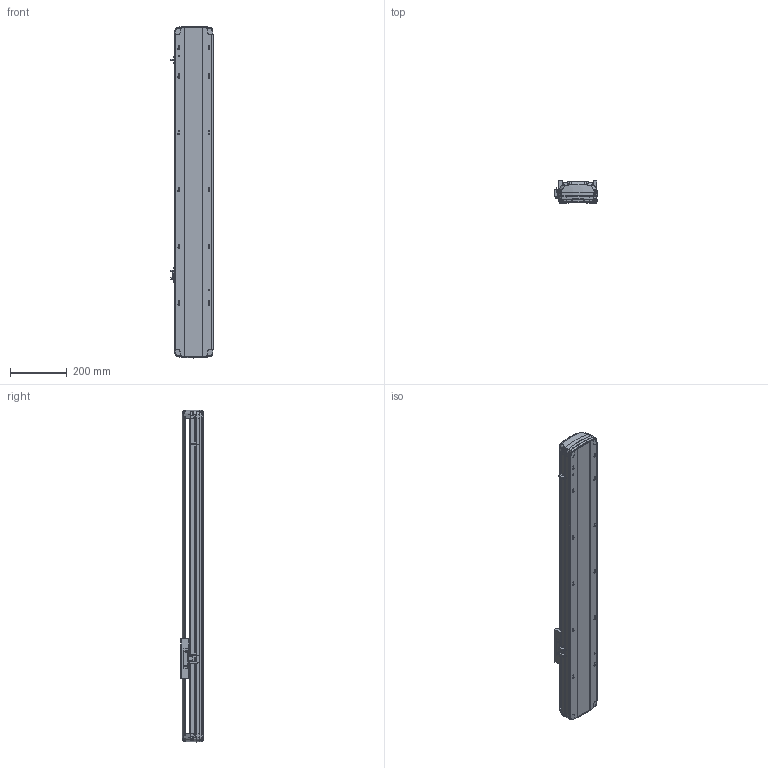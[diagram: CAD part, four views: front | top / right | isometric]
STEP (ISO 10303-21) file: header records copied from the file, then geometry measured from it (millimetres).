
FILE_DESCRIPTION (( 'STEP AP214' ), '1' );
FILE_NAME ('RTH14-XX-750-B-M20B-C4.STEP', '2025-10-24T08:39:11', ( 'Microsoft' ), ( 'Microsoft' ), 'SwSTEP 2.0', 'SolidWorks 2018', '' );
FILE_SCHEMA (( 'AUTOMOTIVE_DESIGN' ));
Length unit declared in the file: millimetre
Products named in the file (7): RTH14-XX-750-B-M20B-C4; N_RTH14-GY-001P^RTH14-XX-XX-B-M20B-C4; N_RTH13-L-012感应片（外置）^RTH14-XX-XX-B-M20B-C4; N_RTH14-B-011PB菁釱^RTH14-XX-XX-B-M20B-C4; N_RTH14-R-004-SFSR16賑釱^RTH14-XX-XX-B-M20B-C4; N_OMRON EE-SX672 传感器^RTH14-XX-XX-B-M20B-C4; N_RTH14-B-007B奻裔^RTH14-XX-XX-B-M20B-C4
Assembly tree (9 placements, depth 2):
  RTH14-XX-750-B-M20B-C4
    N_RTH14-B-011PB菁釱^RTH14-XX-XX-B-M20B-C4
    N_RTH14-B-007B奻裔^RTH14-XX-XX-B-M20B-C4
    N_RTH13-L-012感应片（外置）^RTH14-XX-XX-B-M20B-C4
    N_OMRON EE-SX672 传感器^RTH14-XX-XX-B-M20B-C4  x3
    N_RTH14-R-004-SFSR16賑釱^RTH14-XX-XX-B-M20B-C4
    N_RTH14-GY-001P^RTH14-XX-XX-B-M20B-C4  x2
Bounding box: 148.5 x 78.03 x 1168.99 mm (x, y, z)
Volume: 4764326 mm3; surface area: 1097272.9 mm2
Topology: 9 solids, 9 shells, 1936 faces, 5458 edges, 3554 vertices
Faces by surface type: plane 983, bspline 450, cylinder 439, cone 56, torus 8
Entity records: 47302 total; most frequent: CARTESIAN_POINT 21030, ORIENTED_EDGE 5932, DIRECTION 4389, EDGE_CURVE 2966, VERTEX_POINT 1940, LINE 1661, VECTOR 1661, AXIS2_PLACEMENT_3D 1364
